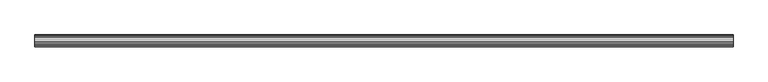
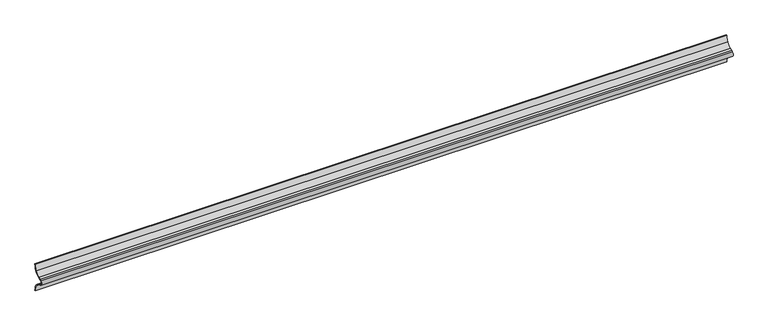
"""IFC4 building model written with IfcOpenShell, lengths in millimetres: plate geometry, Regolare Horizontal 89 : Regolare Horizontal 89."""

from ifc_helpers import new_model, si_unit, point, frame, frame_2d, origin, place, context, project, spatial, polyline, circle_curve, trimmed, segment, composite_curve, outline, extrude, source, transform, mapped, element, save


def plate_02203c13(model_context):
    return source(origin(), model_context, "Body", "SweptSolid", [
        extrude(outline(composite_curve([segment(trimmed(circle_curve(frame_2d((-38.4503244, 89.0514891)), 37.4503244), [point((-6.5021495, 69.5107389))], [point((-1.0, 89.0514891))], True, "CARTESIAN"), True, "CONTINUOUS"), segment(polyline([(-1.0, 89.0514891), (0.0, 89.0514891)]), True, "CONTINUOUS"), segment(trimmed(circle_curve(frame_2d((-38.4503244, 89.0514891)), 38.4503244), [point((0.0, 89.0514891))], [point((-5.6490681, 68.9889611))], False, "CARTESIAN"), True, "CONTINUOUS"), segment(trimmed(circle_curve(frame_2d((-32.6206681, 85.4858438)), 31.6166783), [point((-5.6490681, 68.9889611))], [point((-20.878867, 56.1303596))], False, "CARTESIAN"), True, "CONTINUOUS"), segment(polyline([(-20.878867, 56.1303596), (-28.0423924, 53.2611379), (-31.4771017, 51.6147842)]), True, "CONTINUOUS"), segment(trimmed(circle_curve(frame_2d((-28.0791236, 44.5257445)), 7.8613445), [point((-31.4771017, 51.6147842))], [point((-31.4771017, 37.4367049))], True, "CARTESIAN"), True, "CONTINUOUS"), segment(polyline([(-31.4771017, 37.4367049), (-28.0423924, 35.7903512), (-20.878867, 32.9211295)]), True, "CONTINUOUS"), segment(trimmed(circle_curve(frame_2d((-32.6206681, 3.5656452)), 31.6166783), [point((-20.878867, 32.9211295))], [point((-5.6490681, 20.062528))], False, "CARTESIAN"), True, "CONTINUOUS"), segment(trimmed(circle_curve(frame_2d((-38.4503244, 0.0)), 38.4503244), [point((-5.6490681, 20.062528))], [point((0.0, 0.0))], False, "CARTESIAN"), True, "CONTINUOUS"), segment(polyline([(0.0, 0.0), (-1.0, 0.0)]), True, "CONTINUOUS"), segment(trimmed(circle_curve(frame_2d((-38.4503244, 0.0)), 37.4503244), [point((-1.0, 0.0))], [point((-6.5021495, 19.5407501))], True, "CARTESIAN"), True, "CONTINUOUS"), segment(trimmed(circle_curve(frame_2d((-32.6206681, 3.5656452)), 30.6166783), [point((-6.5021495, 19.5407501))], [point((-21.2504634, 31.9927351))], True, "CARTESIAN"), True, "CONTINUOUS"), segment(polyline([(-21.2504634, 31.9927351), (-28.4448583, 34.874321), (-31.9093405, 36.5349457)]), True, "CONTINUOUS"), segment(trimmed(circle_curve(frame_2d((-28.0791236, 44.5257445)), 8.8613445), [point((-31.9093405, 36.5349457))], [point((-31.9093405, 52.5165434))], False, "CARTESIAN"), True, "CONTINUOUS"), segment(polyline([(-31.9093405, 52.5165434), (-28.4448583, 54.1771681), (-21.2504634, 57.058754)]), True, "CONTINUOUS"), segment(trimmed(circle_curve(frame_2d((-32.6206681, 85.4858438)), 30.6166783), [point((-21.2504634, 57.058754))], [point((-6.5021495, 69.5107389))], True, "CARTESIAN"), True, "CONTINUOUS")], self_intersect=False)), frame((-1100.0, 0.0, 0.0), z_axis=(1.0, 0.0, 0.0), x_axis=(0.0, 1.0, 0.0)), (0.0, 0.0, 1.0), 2200.0),
    ])


if __name__ == "__main__":
    model = new_model("IFC4")
    model_context = context("Model", 3, world=origin())
    ifc_project = project(units=[si_unit("LENGTHUNIT", "METRE", prefix="MILLI")], contexts=[model_context])
    site = spatial("IfcSite", under=ifc_project)
    building = spatial("IfcBuilding", under=site)
    placement = place(None, origin())
    plate_shape = plate_02203c13(model_context)
    element("IfcPlate", 1, ObjectType="Regolare Horizontal 89 : Regolare Horizontal 89", at=placement, inside=building, context=model_context, shape_type="MappedRepresentation", body=[
        mapped(plate_shape, transform((0.0, 0.0, 0.0), x_axis=(1.0, 0.0, 0.0), y_axis=(0.0, 1.0, 0.0), z_axis=(0.0, 0.0, 1.0))),
    ])
    save(model, "model.ifc")
